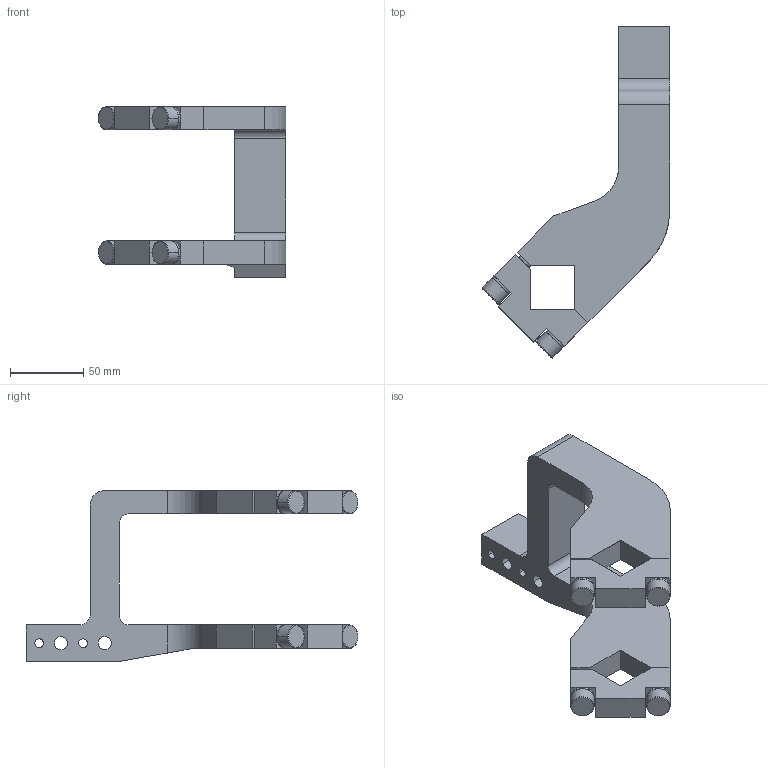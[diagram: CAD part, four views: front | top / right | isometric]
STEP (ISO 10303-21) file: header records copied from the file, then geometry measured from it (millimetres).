
FILE_DESCRIPTION(('CATIA V5 STEP Exchange'),'2;1');
FILE_NAME('E:\clampact\CLAMPACT\clampact\catalog\Clampact Arm\Arm 3D\Clampact Arm\arm_K80_45_A41_Clampact.stp','2022-12-06T08:55:52+00:00',('none'),('none'),'CATIA Version 5 Release 19 SP 6 (IN-10)','CATIA V5 STEP AP203','none');
FILE_SCHEMA(('CONFIG_CONTROL_DESIGN'));
Length unit declared in the file: millimetre
Products named in the file (1): K80_45_A41_Clampact-柯莱普
Bounding box: 128.32 x 227.32 x 117 mm (x, y, z)
Volume: 395393.9 mm3; surface area: 76741.1 mm2
Topology: 1 solids, 5 shells, 160 faces, 412 edges, 256 vertices
Faces by surface type: plane 80, cylinder 48, cone 20, torus 12
Entity records: 4624 total; most frequent: CARTESIAN_POINT 1009, ORIENTED_EDGE 808, DIRECTION 589, EDGE_CURVE 404, VERTEX_POINT 256, VECTOR 241, LINE 241, AXIS2_PLACEMENT_3D 237
